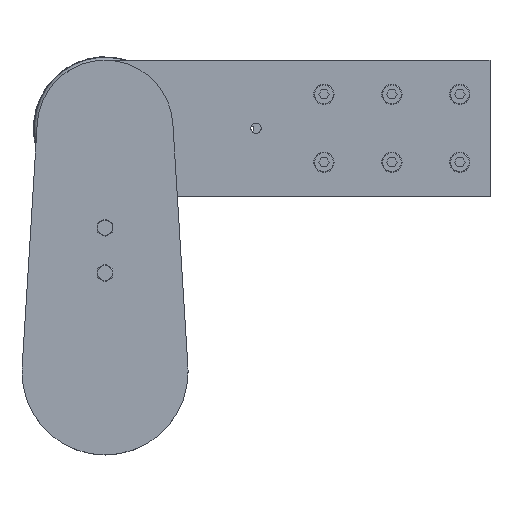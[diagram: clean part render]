
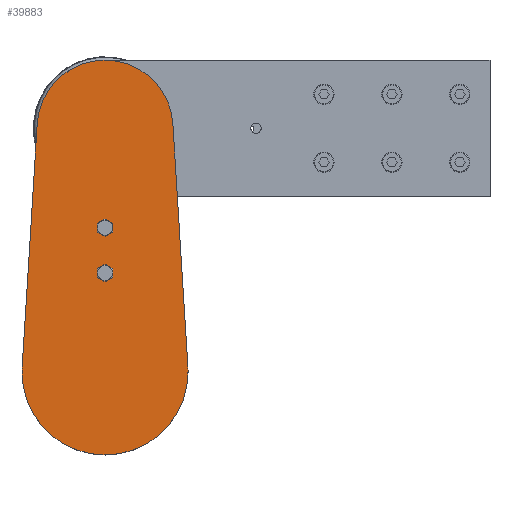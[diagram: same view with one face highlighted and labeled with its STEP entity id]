
A CAD part, top view. The second image highlights one B-rep face of the part: STEP entity #39883.
In plain terms, the highlighted planar face has unit normal (0, 0, 1) as drawn and (0, 0, -1) by its records, which use the part's own axes.
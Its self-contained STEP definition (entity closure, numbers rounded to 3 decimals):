
#3701 = CIRCLE ( 'NONE', #3709, 3.5 ) ;
#3707 = CIRCLE ( 'NONE', #3711, 3.5 ) ;
#3708 = VECTOR ( 'NONE', #52313, 1000. ) ;
#3709 = AXIS2_PLACEMENT_3D ( 'NONE', #52304, #52305, #52306 ) ;
#3711 = AXIS2_PLACEMENT_3D ( 'NONE', #52308, #52309, #52310 ) ;
#3712 = CIRCLE ( 'NONE', #3715, 55. ) ;
#3715 = AXIS2_PLACEMENT_3D ( 'NONE', #52316, #52317, #52318 ) ;
#3719 = VECTOR ( 'NONE', #52330, 1000. ) ;
#3724 = CIRCLE ( 'NONE', #3726, 45. ) ;
#3726 = AXIS2_PLACEMENT_3D ( 'NONE', #52338, #52339, #52340 ) ;
#3739 = CIRCLE ( 'NONE', #3742, 55. ) ;
#3742 = AXIS2_PLACEMENT_3D ( 'NONE', #52369, #52370, #52371 ) ;
#3746 = CIRCLE ( 'NONE', #3748, 55. ) ;
#3748 = AXIS2_PLACEMENT_3D ( 'NONE', #52381, #52382, #52383 ) ;
#3766 = CIRCLE ( 'NONE', #3768, 3.5 ) ;
#3768 = AXIS2_PLACEMENT_3D ( 'NONE', #52419, #52420, #52421 ) ;
#3777 = CIRCLE ( 'NONE', #3781, 3.5 ) ;
#3781 = AXIS2_PLACEMENT_3D ( 'NONE', #52431, #52432, #52433 ) ;
#7250 = EDGE_LOOP ( 'NONE', ( #7450, #7451 ) ) ;
#7255 = EDGE_LOOP ( 'NONE', ( #7454, #7455, #7456, #7457, #7458, #7459 ) ) ;
#7256 = EDGE_LOOP ( 'NONE', ( #7452, #7453 ) ) ;
#7450 = ORIENTED_EDGE ( 'NONE', *, *, #43669, .F. ) ;
#7451 = ORIENTED_EDGE ( 'NONE', *, *, #43628, .F. ) ;
#7452 = ORIENTED_EDGE ( 'NONE', *, *, #43665, .F. ) ;
#7453 = ORIENTED_EDGE ( 'NONE', *, *, #43627, .F. ) ;
#7454 = ORIENTED_EDGE ( 'NONE', *, *, #43639, .F. ) ;
#7455 = ORIENTED_EDGE ( 'NONE', *, *, #43630, .F. ) ;
#7456 = ORIENTED_EDGE ( 'NONE', *, *, #43652, .F. ) ;
#7457 = ORIENTED_EDGE ( 'NONE', *, *, #43648, .F. ) ;
#7458 = ORIENTED_EDGE ( 'NONE', *, *, #43631, .F. ) ;
#7459 = ORIENTED_EDGE ( 'NONE', *, *, #43635, .F. ) ;
#12402 = VERTEX_POINT ( 'NONE', #40876 ) ;
#12408 = VERTEX_POINT ( 'NONE', #40882 ) ;
#12409 = VERTEX_POINT ( 'NONE', #40883 ) ;
#12410 = VERTEX_POINT ( 'NONE', #40884 ) ;
#12437 = VERTEX_POINT ( 'NONE', #40911 ) ;
#12483 = VERTEX_POINT ( 'NONE', #40957 ) ;
#12514 = VERTEX_POINT ( 'NONE', #40980 ) ;
#12516 = VERTEX_POINT ( 'NONE', #40982 ) ;
#12561 = VERTEX_POINT ( 'NONE', #41023 ) ;
#12562 = VERTEX_POINT ( 'NONE', #41024 ) ;
#29200 = DIRECTION ( 'NONE',  ( 0., 0., 1. ) ) ;
#29201 = FACE_BOUND ( 'NONE', #7256, .T. ) ;
#29204 = CARTESIAN_POINT ( 'NONE',  ( 0., 161.5, 0. ) ) ;
#29205 = FACE_BOUND ( 'NONE', #7250, .T. ) ;
#29207 = FACE_OUTER_BOUND ( 'NONE', #7255, .T. ) ;
#29208 = PLANE ( 'NONE',  #46413 ) ;
#29210 = DIRECTION ( 'NONE',  ( 1., 0., 0. ) ) ;
#39883 = ADVANCED_FACE ( 'NONE', ( #29205, #29201, #29207 ), #29208, .F. ) ;
#40876 = CARTESIAN_POINT ( 'NONE',  ( -3.5, 65.5, 0. ) ) ;
#40882 = CARTESIAN_POINT ( 'NONE',  ( 44.914, 164.286, 0. ) ) ;
#40883 = CARTESIAN_POINT ( 'NONE',  ( -54.894, 3.406, 0. ) ) ;
#40884 = CARTESIAN_POINT ( 'NONE',  ( -3.5, 95.5, 0. ) ) ;
#40911 = CARTESIAN_POINT ( 'NONE',  ( 55., 0., 0. ) ) ;
#40957 = CARTESIAN_POINT ( 'NONE',  ( 3.5, 95.5, 0. ) ) ;
#40980 = CARTESIAN_POINT ( 'NONE',  ( 3.5, 65.5, 0. ) ) ;
#40982 = CARTESIAN_POINT ( 'NONE',  ( 54.894, 3.406, 0. ) ) ;
#41023 = CARTESIAN_POINT ( 'NONE',  ( -55., 0., 0. ) ) ;
#41024 = CARTESIAN_POINT ( 'NONE',  ( -44.914, 164.286, 0. ) ) ;
#43627 = EDGE_CURVE ( 'NONE', #12402, #12514, #3701, .T. ) ;
#43628 = EDGE_CURVE ( 'NONE', #12410, #12483, #3707, .T. ) ;
#43630 = EDGE_CURVE ( 'NONE', #12516, #12408, #52307, .T. ) ;
#43631 = EDGE_CURVE ( 'NONE', #12409, #12561, #3712, .T. ) ;
#43635 = EDGE_CURVE ( 'NONE', #12562, #12409, #52327, .T. ) ;
#43639 = EDGE_CURVE ( 'NONE', #12408, #12562, #3724, .T. ) ;
#43648 = EDGE_CURVE ( 'NONE', #12561, #12437, #3739, .T. ) ;
#43652 = EDGE_CURVE ( 'NONE', #12437, #12516, #3746, .T. ) ;
#43665 = EDGE_CURVE ( 'NONE', #12514, #12402, #3766, .T. ) ;
#43669 = EDGE_CURVE ( 'NONE', #12483, #12410, #3777, .T. ) ;
#46413 = AXIS2_PLACEMENT_3D ( 'NONE', #29204, #29200, #29210 ) ;
#52304 = CARTESIAN_POINT ( 'NONE',  ( 0., 65.5, 0. ) ) ;
#52305 = DIRECTION ( 'NONE',  ( 0., 0., -1. ) ) ;
#52306 = DIRECTION ( 'NONE',  ( 1., 0., 0. ) ) ;
#52307 = LINE ( 'NONE', #52312, #3708 ) ;
#52308 = CARTESIAN_POINT ( 'NONE',  ( 0., 95.5, 0. ) ) ;
#52309 = DIRECTION ( 'NONE',  ( 0., 0., -1. ) ) ;
#52310 = DIRECTION ( 'NONE',  ( 1., 0., 0. ) ) ;
#52312 = CARTESIAN_POINT ( 'NONE',  ( 44.914, 164.286, 0. ) ) ;
#52313 = DIRECTION ( 'NONE',  ( -0.062, 0.998, 0. ) ) ;
#52316 = CARTESIAN_POINT ( 'NONE',  ( 0., 0., 0. ) ) ;
#52317 = DIRECTION ( 'NONE',  ( 0., 0., 1. ) ) ;
#52318 = DIRECTION ( 'NONE',  ( 1., 0., 0. ) ) ;
#52327 = LINE ( 'NONE', #52329, #3719 ) ;
#52329 = CARTESIAN_POINT ( 'NONE',  ( -44.914, 164.286, 0. ) ) ;
#52330 = DIRECTION ( 'NONE',  ( -0.062, -0.998, 0. ) ) ;
#52338 = CARTESIAN_POINT ( 'NONE',  ( 0., 161.5, 0. ) ) ;
#52339 = DIRECTION ( 'NONE',  ( 0., 0., 1. ) ) ;
#52340 = DIRECTION ( 'NONE',  ( 1., 0., 0. ) ) ;
#52369 = CARTESIAN_POINT ( 'NONE',  ( 0., 0., 0. ) ) ;
#52370 = DIRECTION ( 'NONE',  ( 0., 0., 1. ) ) ;
#52371 = DIRECTION ( 'NONE',  ( 1., 0., 0. ) ) ;
#52381 = CARTESIAN_POINT ( 'NONE',  ( 0., 0., 0. ) ) ;
#52382 = DIRECTION ( 'NONE',  ( 0., 0., 1. ) ) ;
#52383 = DIRECTION ( 'NONE',  ( 1., 0., 0. ) ) ;
#52419 = CARTESIAN_POINT ( 'NONE',  ( 0., 65.5, 0. ) ) ;
#52420 = DIRECTION ( 'NONE',  ( 0., 0., -1. ) ) ;
#52421 = DIRECTION ( 'NONE',  ( 1., 0., 0. ) ) ;
#52431 = CARTESIAN_POINT ( 'NONE',  ( 0., 95.5, 0. ) ) ;
#52432 = DIRECTION ( 'NONE',  ( 0., 0., -1. ) ) ;
#52433 = DIRECTION ( 'NONE',  ( 1., 0., 0. ) ) ;
